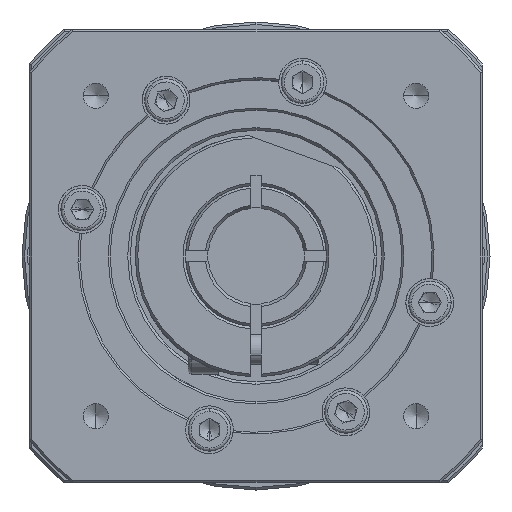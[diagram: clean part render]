
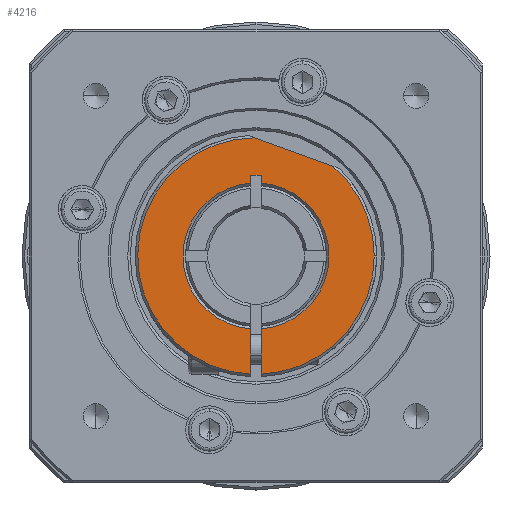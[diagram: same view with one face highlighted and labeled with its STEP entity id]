
A CAD part, left-side view. The second image highlights one B-rep face of the part: STEP entity #4216.
In plain terms, the highlighted planar face has unit normal (-1, 0, 0) as drawn and (1, 0, 0) by its records, which use the part's own axes.
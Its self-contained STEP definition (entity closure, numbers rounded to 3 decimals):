
#423 = DIRECTION ( 'NONE',  ( 1., 0., 0. ) ) ;
#588 = AXIS2_PLACEMENT_3D ( 'NONE', #2720, #23508, #14471 ) ;
#710 = CIRCLE ( 'NONE', #13891, 14.5 ) ;
#1079 = DIRECTION ( 'NONE',  ( 0., -1., 0. ) ) ;
#1276 = EDGE_CURVE ( 'NONE', #29106, #18377, #21975, .T. ) ;
#1526 = LINE ( 'NONE', #13175, #2611 ) ;
#1559 = CARTESIAN_POINT ( 'NONE',  ( 6.5, -1., 34.492 ) ) ;
#1787 = VERTEX_POINT ( 'NONE', #16089 ) ;
#2201 = DIRECTION ( 'NONE',  ( 0., 0.94, -0.342 ) ) ;
#2438 = VERTEX_POINT ( 'NONE', #7232 ) ;
#2482 = DIRECTION ( 'NONE',  ( 1., 0., 0. ) ) ;
#2611 = VECTOR ( 'NONE', #3654, 1000. ) ;
#2640 = EDGE_CURVE ( 'NONE', #26622, #2438, #1526, .T. ) ;
#2720 = CARTESIAN_POINT ( 'NONE',  ( 6.5, 0., 0. ) ) ;
#2782 = VECTOR ( 'NONE', #22080, 1000. ) ;
#3177 = VECTOR ( 'NONE', #20053, 1000. ) ;
#3312 = AXIS2_PLACEMENT_3D ( 'NONE', #25775, #423, #7974 ) ;
#3654 = DIRECTION ( 'NONE',  ( 0., 0., -1. ) ) ;
#4076 = EDGE_CURVE ( 'NONE', #20225, #7355, #15099, .T. ) ;
#4216 = ADVANCED_FACE ( 'NONE', ( #26577 ), #23448, .T. ) ;
#4782 = EDGE_CURVE ( 'NONE', #13069, #1787, #26155, .T. ) ;
#6204 = DIRECTION ( 'NONE',  ( 1., 0., 0. ) ) ;
#7213 = CARTESIAN_POINT ( 'NONE',  ( 6.5, -1., -16. ) ) ;
#7232 = CARTESIAN_POINT ( 'NONE',  ( 6.5, 1., 14.465 ) ) ;
#7355 = VERTEX_POINT ( 'NONE', #13875 ) ;
#7688 = EDGE_CURVE ( 'NONE', #28846, #20225, #11064, .T. ) ;
#7974 = DIRECTION ( 'NONE',  ( 0., 0., -1. ) ) ;
#8034 = CARTESIAN_POINT ( 'NONE',  ( 6.5, 1., -16. ) ) ;
#8654 = CARTESIAN_POINT ( 'NONE',  ( 6.5, 0., 0. ) ) ;
#8773 = ORIENTED_EDGE ( 'NONE', *, *, #24274, .T. ) ;
#9968 = ORIENTED_EDGE ( 'NONE', *, *, #26118, .T. ) ;
#10931 = CARTESIAN_POINT ( 'NONE',  ( 6.5, 1., 0. ) ) ;
#11064 = LINE ( 'NONE', #8034, #21499 ) ;
#11672 = VERTEX_POINT ( 'NONE', #21690 ) ;
#12116 = CIRCLE ( 'NONE', #25596, 23.5 ) ;
#12707 = CARTESIAN_POINT ( 'NONE',  ( 6.5, 1., 23.479 ) ) ;
#13069 = VERTEX_POINT ( 'NONE', #16355 ) ;
#13175 = CARTESIAN_POINT ( 'NONE',  ( 6.5, 1., 34.492 ) ) ;
#13716 = ORIENTED_EDGE ( 'NONE', *, *, #2640, .T. ) ;
#13727 = EDGE_LOOP ( 'NONE', ( #8773, #23820, #13716, #26571, #9968, #13788, #24854, #19307, #20548, #15247, #28912 ) ) ;
#13788 = ORIENTED_EDGE ( 'NONE', *, *, #7688, .T. ) ;
#13866 = CARTESIAN_POINT ( 'NONE',  ( 6.5, 0., 0. ) ) ;
#13875 = CARTESIAN_POINT ( 'NONE',  ( 6.5, -1., -14.465 ) ) ;
#13891 = AXIS2_PLACEMENT_3D ( 'NONE', #27543, #25737, #16174 ) ;
#14086 = VECTOR ( 'NONE', #2201, 1000. ) ;
#14471 = DIRECTION ( 'NONE',  ( 0., -1., 0. ) ) ;
#14532 = VECTOR ( 'NONE', #19966, 1000. ) ;
#14831 = EDGE_CURVE ( 'NONE', #11672, #26622, #16540, .T. ) ;
#15099 = LINE ( 'NONE', #15149, #2782 ) ;
#15149 = CARTESIAN_POINT ( 'NONE',  ( 6.5, -1., 0. ) ) ;
#15247 = ORIENTED_EDGE ( 'NONE', *, *, #22422, .T. ) ;
#16089 = CARTESIAN_POINT ( 'NONE',  ( 6.5, -15.288, -17.848 ) ) ;
#16174 = DIRECTION ( 'NONE',  ( 0., 0., -1. ) ) ;
#16355 = CARTESIAN_POINT ( 'NONE',  ( 6.5, -23.5, 0. ) ) ;
#16540 = CIRCLE ( 'NONE', #19634, 23.5 ) ;
#18377 = VERTEX_POINT ( 'NONE', #22996 ) ;
#18785 = CARTESIAN_POINT ( 'NONE',  ( 6.5, 1.489, -23.954 ) ) ;
#19307 = ORIENTED_EDGE ( 'NONE', *, *, #20184, .T. ) ;
#19634 = AXIS2_PLACEMENT_3D ( 'NONE', #8654, #6204, #22605 ) ;
#19966 = DIRECTION ( 'NONE',  ( 0., 0., -1. ) ) ;
#20053 = DIRECTION ( 'NONE',  ( 0., 0., 1. ) ) ;
#20182 = LINE ( 'NONE', #18785, #14086 ) ;
#20184 = EDGE_CURVE ( 'NONE', #7355, #29106, #26627, .T. ) ;
#20225 = VERTEX_POINT ( 'NONE', #7213 ) ;
#20548 = ORIENTED_EDGE ( 'NONE', *, *, #1276, .T. ) ;
#20615 = CARTESIAN_POINT ( 'NONE',  ( 6.5, 1., -16. ) ) ;
#20884 = DIRECTION ( 'NONE',  ( 0., 0., -1. ) ) ;
#21080 = DIRECTION ( 'NONE',  ( -1., 0., 0. ) ) ;
#21499 = VECTOR ( 'NONE', #1079, 1000. ) ;
#21690 = CARTESIAN_POINT ( 'NONE',  ( 6.5, 0.239, -23.499 ) ) ;
#21975 = LINE ( 'NONE', #1559, #3177 ) ;
#22080 = DIRECTION ( 'NONE',  ( 0., 0., 1. ) ) ;
#22422 = EDGE_CURVE ( 'NONE', #18377, #13069, #12116, .T. ) ;
#22605 = DIRECTION ( 'NONE',  ( 0., 0., 1. ) ) ;
#22996 = CARTESIAN_POINT ( 'NONE',  ( 6.5, -1., 23.479 ) ) ;
#23060 = DIRECTION ( 'NONE',  ( 0., -1., 0. ) ) ;
#23262 = CARTESIAN_POINT ( 'NONE',  ( 6.5, 0., 0. ) ) ;
#23448 = PLANE ( 'NONE',  #3312 ) ;
#23492 = EDGE_CURVE ( 'NONE', #2438, #25747, #710, .T. ) ;
#23508 = DIRECTION ( 'NONE',  ( 1., 0., 0. ) ) ;
#23820 = ORIENTED_EDGE ( 'NONE', *, *, #14831, .T. ) ;
#23849 = LINE ( 'NONE', #10931, #14532 ) ;
#24274 = EDGE_CURVE ( 'NONE', #1787, #11672, #20182, .T. ) ;
#24840 = CARTESIAN_POINT ( 'NONE',  ( 6.5, 1., -14.465 ) ) ;
#24854 = ORIENTED_EDGE ( 'NONE', *, *, #4076, .T. ) ;
#25596 = AXIS2_PLACEMENT_3D ( 'NONE', #23262, #2482, #23060 ) ;
#25737 = DIRECTION ( 'NONE',  ( -1., 0., 0. ) ) ;
#25747 = VERTEX_POINT ( 'NONE', #24840 ) ;
#25775 = CARTESIAN_POINT ( 'NONE',  ( 6.5, 0., 0. ) ) ;
#26118 = EDGE_CURVE ( 'NONE', #25747, #28846, #23849, .T. ) ;
#26155 = CIRCLE ( 'NONE', #588, 23.5 ) ;
#26571 = ORIENTED_EDGE ( 'NONE', *, *, #23492, .T. ) ;
#26577 = FACE_OUTER_BOUND ( 'NONE', #13727, .T. ) ;
#26622 = VERTEX_POINT ( 'NONE', #12707 ) ;
#26627 = CIRCLE ( 'NONE', #28595, 14.5 ) ;
#27543 = CARTESIAN_POINT ( 'NONE',  ( 6.5, 0., 0. ) ) ;
#28445 = CARTESIAN_POINT ( 'NONE',  ( 6.5, -1., 14.465 ) ) ;
#28595 = AXIS2_PLACEMENT_3D ( 'NONE', #13866, #21080, #20884 ) ;
#28846 = VERTEX_POINT ( 'NONE', #20615 ) ;
#28912 = ORIENTED_EDGE ( 'NONE', *, *, #4782, .T. ) ;
#29106 = VERTEX_POINT ( 'NONE', #28445 ) ;
